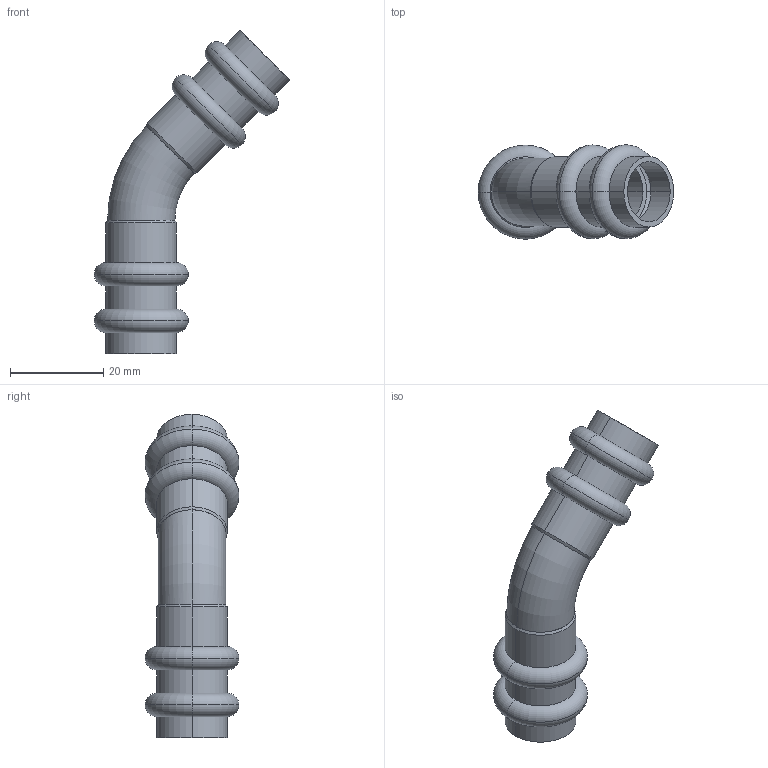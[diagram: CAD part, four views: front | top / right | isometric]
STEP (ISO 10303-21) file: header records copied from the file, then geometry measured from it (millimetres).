
FILE_DESCRIPTION(('starvars output'),'1');
FILE_NAME('cv20240422105100000011893.stp','10:51:00 2024/04/22',('Thomas Industrial Network Germany GmbH'),(' '),'Spatial InterOp 3D',' ',' ');
FILE_SCHEMA(('AUTOMOTIVE_DESIGN { 1 0 10303 214 3 1 1 }'));
Length unit declared in the file: millimetre
Products named in the file (1): 1
Bounding box: 41.83 x 20.1 x 69.18 mm (x, y, z)
Volume: 5195.4 mm3; surface area: 7788.7 mm2
Topology: 1 solids, 1 shells, 66 faces, 132 edges, 76 vertices
Faces by surface type: torus 28, cylinder 20, plane 10, cone 8
Entity records: 2552 total; most frequent: CARTESIAN_POINT 551, DIRECTION 362, ORIENTED_EDGE 264, AXIS2_PLACEMENT_3D 167, EDGE_CURVE 132, CIRCLE 100, EDGE_LOOP 76, VERTEX_POINT 76
